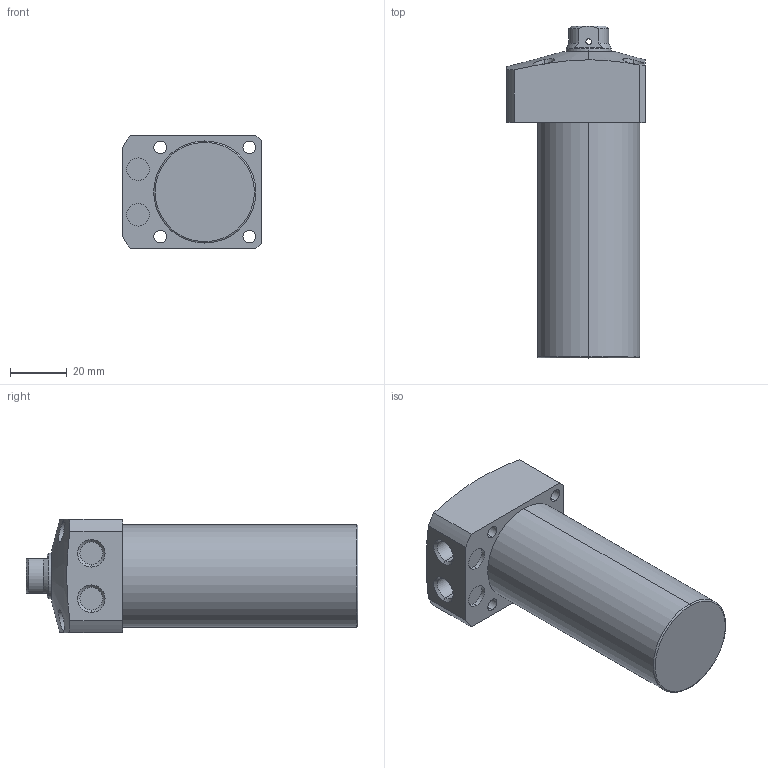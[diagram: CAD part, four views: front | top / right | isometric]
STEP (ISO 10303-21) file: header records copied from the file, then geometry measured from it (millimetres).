
FILE_DESCRIPTION (( 'STEP AP203' ), '1' );
FILE_NAME ('CLL-036CB-060.STEP', '2019-12-21T02:27:33', ( '' ), ( '' ), 'SwSTEP 2.0', 'SolidWorks 2015', '' );
FILE_SCHEMA (( 'CONFIG_CONTROL_DESIGN' ));
Length unit declared in the file: millimetre
Products named in the file (1): CLL-036CB-060
Bounding box: 49 x 117 x 40 mm (x, y, z)
Volume: 125903.9 mm3; surface area: 19595.2 mm2
Topology: 1 solids, 1 shells, 76 faces, 184 edges, 117 vertices
Faces by surface type: cylinder 38, plane 22, cone 14, torus 2
Entity records: 2699 total; most frequent: CARTESIAN_POINT 814, DIRECTION 386, ORIENTED_EDGE 364, EDGE_CURVE 182, AXIS2_PLACEMENT_3D 159, VERTEX_POINT 117, EDGE_LOOP 97, CIRCLE 82
